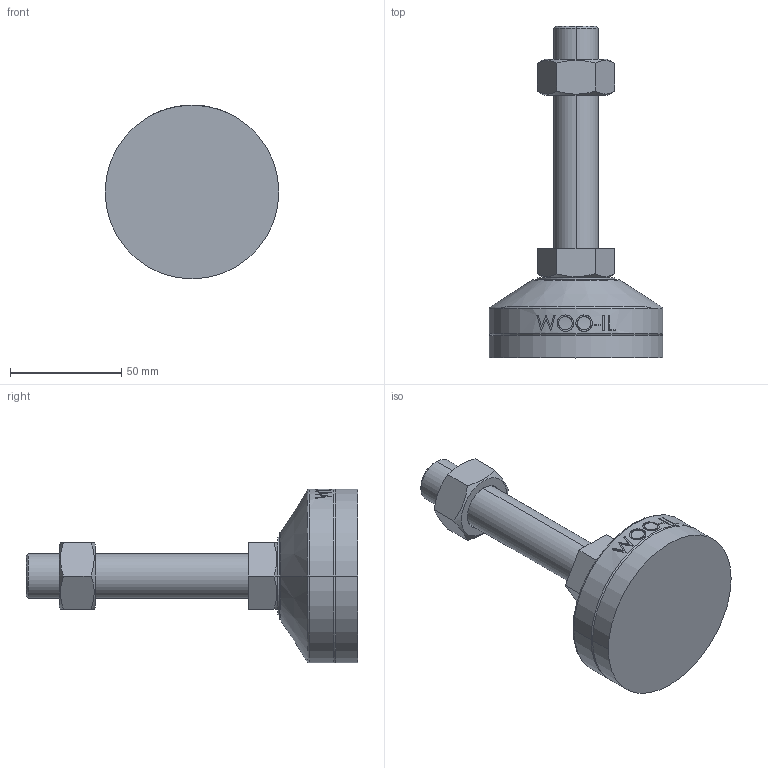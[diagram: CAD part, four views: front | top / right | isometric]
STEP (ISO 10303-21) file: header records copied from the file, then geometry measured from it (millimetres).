
FILE_DESCRIPTION (( 'STEP AP214' ), '1' );
FILE_NAME ('MFR78-M20-100.step', '2021-01-13T05:39:13', ( '' ), ( '' ), 'SwSTEP 2.0', 'SolidWorks 2019', '' );
FILE_SCHEMA (( 'AUTOMOTIVE_DESIGN' ));
Length unit declared in the file: millimetre
Products named in the file (2): MFR78-M20-100
Bounding box: 78 x 149 x 78 mm (x, y, z)
Volume: 191977.4 mm3; surface area: 28756.3 mm2
Topology: 3 solids, 3 shells, 102 faces, 239 edges, 154 vertices
Faces by surface type: plane 48, cylinder 18, bspline 16, cone 14, torus 6
Entity records: 4460 total; most frequent: CARTESIAN_POINT 2185, ORIENTED_EDGE 478, DIRECTION 415, EDGE_CURVE 239, AXIS2_PLACEMENT_3D 158, VERTEX_POINT 154, EDGE_LOOP 115, FACE_OUTER_BOUND 102
